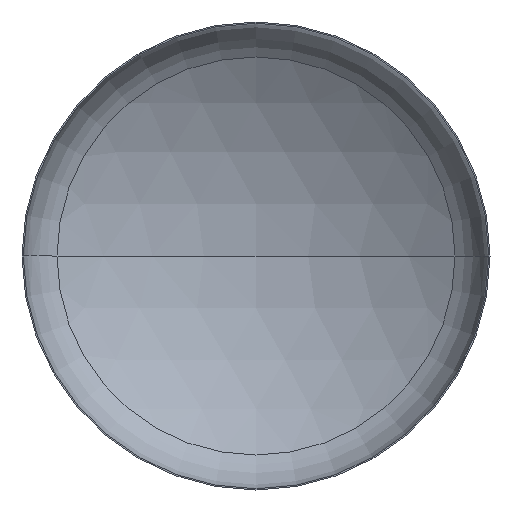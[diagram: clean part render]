
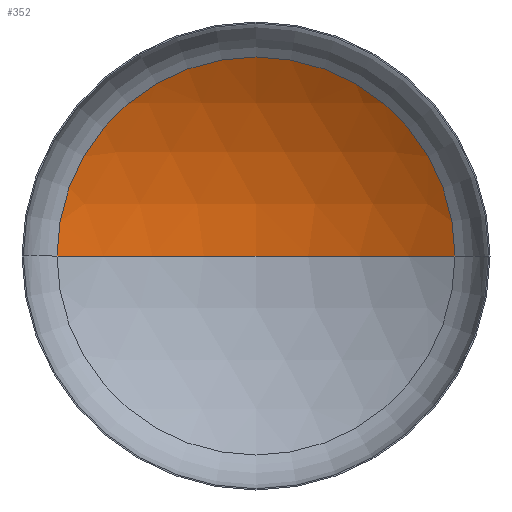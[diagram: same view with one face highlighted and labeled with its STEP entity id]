
A CAD part, front view. The second image highlights one B-rep face of the part: STEP entity #352.
In plain terms, the highlighted spherical face has radius 3200 mm.
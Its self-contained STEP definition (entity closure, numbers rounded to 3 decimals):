
#4 = CARTESIAN_POINT ( 'NONE',  ( 1700.89, 560.93, 0. ) ) ;
#5 = AXIS2_PLACEMENT_3D ( 'NONE', #167, #193, #221 ) ;
#14 = AXIS2_PLACEMENT_3D ( 'NONE', #275, #106, #306 ) ;
#15 = AXIS2_PLACEMENT_3D ( 'NONE', #390, #217, #18 ) ;
#18 = DIRECTION ( 'NONE',  ( 1., 0., 0. ) ) ;
#30 = CARTESIAN_POINT ( 'NONE',  ( 0., -2149.6, 0. ) ) ;
#72 = ORIENTED_EDGE ( 'NONE', *, *, #382, .F. ) ;
#73 = CARTESIAN_POINT ( 'NONE',  ( -1700.89, 560.93, 0. ) ) ;
#80 = DIRECTION ( 'NONE',  ( 1., 0., 0. ) ) ;
#97 = CIRCLE ( 'NONE', #228, 3200. ) ;
#106 = DIRECTION ( 'NONE',  ( 0., 0., -1. ) ) ;
#109 = FACE_OUTER_BOUND ( 'NONE', #348, .T. ) ;
#142 = ORIENTED_EDGE ( 'NONE', *, *, #323, .T. ) ;
#167 = CARTESIAN_POINT ( 'NONE',  ( 0., -2149.6, 0. ) ) ;
#187 = VERTEX_POINT ( 'NONE', #397 ) ;
#188 = SPHERICAL_SURFACE ( 'NONE', #5, 3200. ) ;
#193 = DIRECTION ( 'NONE',  ( 0., 0., -1. ) ) ;
#217 = DIRECTION ( 'NONE',  ( 0., -1., 0. ) ) ;
#221 = DIRECTION ( 'NONE',  ( -1., 0., 0. ) ) ;
#228 = AXIS2_PLACEMENT_3D ( 'NONE', #30, #252, #80 ) ;
#243 = VERTEX_POINT ( 'NONE', #4 ) ;
#252 = DIRECTION ( 'NONE',  ( 0., 0., 1. ) ) ;
#265 = VERTEX_POINT ( 'NONE', #73 ) ;
#267 = CIRCLE ( 'NONE', #14, 3200. ) ;
#275 = CARTESIAN_POINT ( 'NONE',  ( 0., -2149.6, 0. ) ) ;
#277 = CIRCLE ( 'NONE', #15, 1700.89 ) ;
#306 = DIRECTION ( 'NONE',  ( -1., 0., 0. ) ) ;
#320 = EDGE_CURVE ( 'NONE', #243, #265, #277, .T. ) ;
#323 = EDGE_CURVE ( 'NONE', #187, #243, #267, .T. ) ;
#348 = EDGE_LOOP ( 'NONE', ( #72, #142, #401 ) ) ;
#352 = ADVANCED_FACE ( 'NONE', ( #109 ), #188, .F. ) ;
#382 = EDGE_CURVE ( 'NONE', #187, #265, #97, .T. ) ;
#390 = CARTESIAN_POINT ( 'NONE',  ( 0., 560.93, 0. ) ) ;
#397 = CARTESIAN_POINT ( 'NONE',  ( 0., 1050.4, 0. ) ) ;
#401 = ORIENTED_EDGE ( 'NONE', *, *, #320, .T. ) ;
